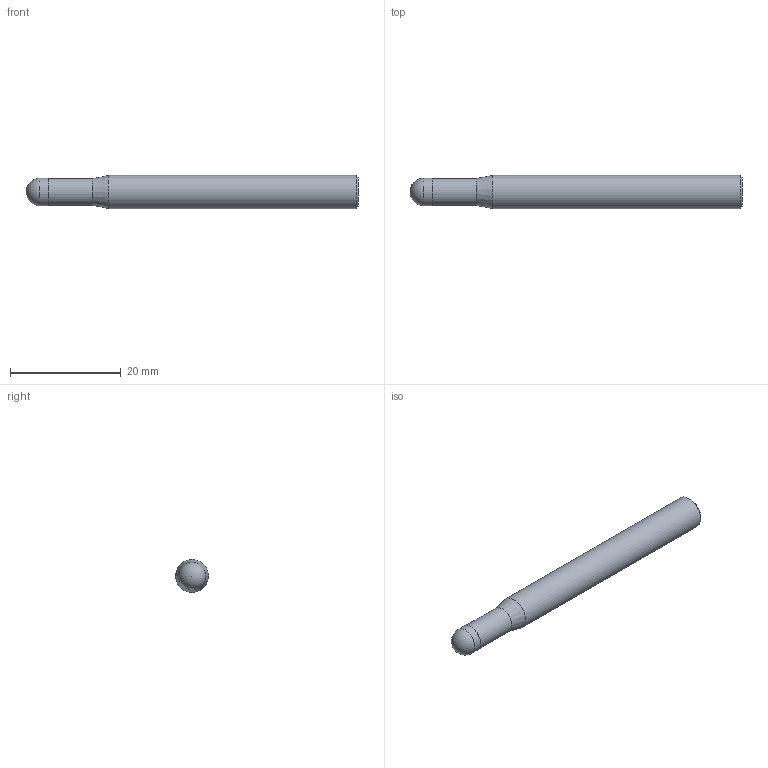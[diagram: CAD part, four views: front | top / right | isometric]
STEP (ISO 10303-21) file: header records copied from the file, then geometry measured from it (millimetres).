
FILE_DESCRIPTION(/* description */ (''),/* implementation_level */ '2;1');
FILE_NAME(/* name */ 'HSXB2050 0660.stp',/* time_stamp */ '2026-08-01T17:13:49+08:00',/* author */ (''),/* organization */ (''),/* preprocessor_version */ 'ST-DEVELOPER v16',/* originating_system */ 'SIEMENS PLM Software NX 10.0',/* authorisation */ '');
FILE_SCHEMA (('CONFIG_CONTROL_DESIGN'));
Length unit declared in the file: millimetre
Products named in the file (1): HSXB2050 0660_dxf
Bounding box: 60 x 6 x 6 mm (x, y, z)
Volume: 1551.3 mm3; surface area: 1148.1 mm2
Topology: 2 solids, 2 shells, 9 faces, 15 edges, 9 vertices
Faces by surface type: plane 3, cylinder 3, cone 2, sphere 1
Full cylindrical faces by diameter (mm): 4.85 x1, 5 x1, 6 x1
Entity records: 246 total; most frequent: DIRECTION 34, CARTESIAN_POINT 24, AXIS2_PLACEMENT_3D 17, EDGE_LOOP 14, ORIENTED_EDGE 14, FACE_BOUND 10, ADVANCED_FACE 9, PERSON_AND_ORGANIZATION 7
